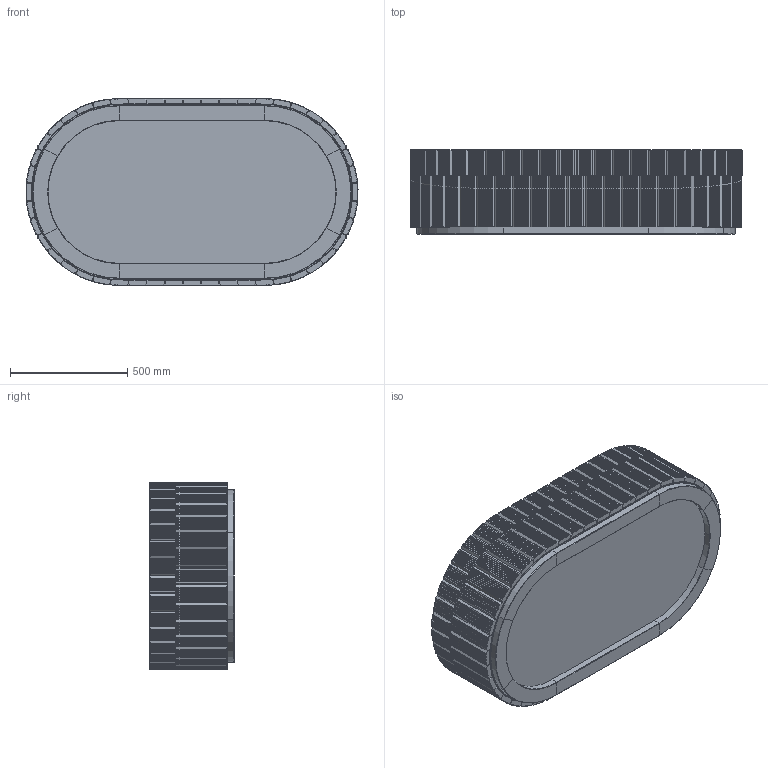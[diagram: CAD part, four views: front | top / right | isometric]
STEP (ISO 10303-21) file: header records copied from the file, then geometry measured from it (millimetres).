
FILE_DESCRIPTION (( 'STEP AP203' ), '1' );
FILE_NAME ('REPETA 10 OVAL SIDE TABLE.STEP', '2020-11-19T09:35:17', ( '' ), ( '' ), 'SwSTEP 2.0', 'SolidWorks 2020', '' );
FILE_SCHEMA (( 'CONFIG_CONTROL_DESIGN' ));
Length unit declared in the file: millimetre
Products named in the file (1): REPETA 10 OVAL SIDE TABLE
Bounding box: 1418.28 x 360 x 800 mm (x, y, z)
Volume: 79088953.8 mm3; surface area: 6698983.1 mm2
Topology: 1 solids, 1 shells, 6251 faces, 17048 edges, 10606 vertices
Faces by surface type: plane 6165, cone 36, cylinder 34, torus 8, bspline 8
Entity records: 192217 total; most frequent: CARTESIAN_POINT 35386, ORIENTED_EDGE 34096, DIRECTION 29682, EDGE_CURVE 17048, LINE 16838, VECTOR 16838, VERTEX_POINT 10606, AXIS2_PLACEMENT_3D 6422
